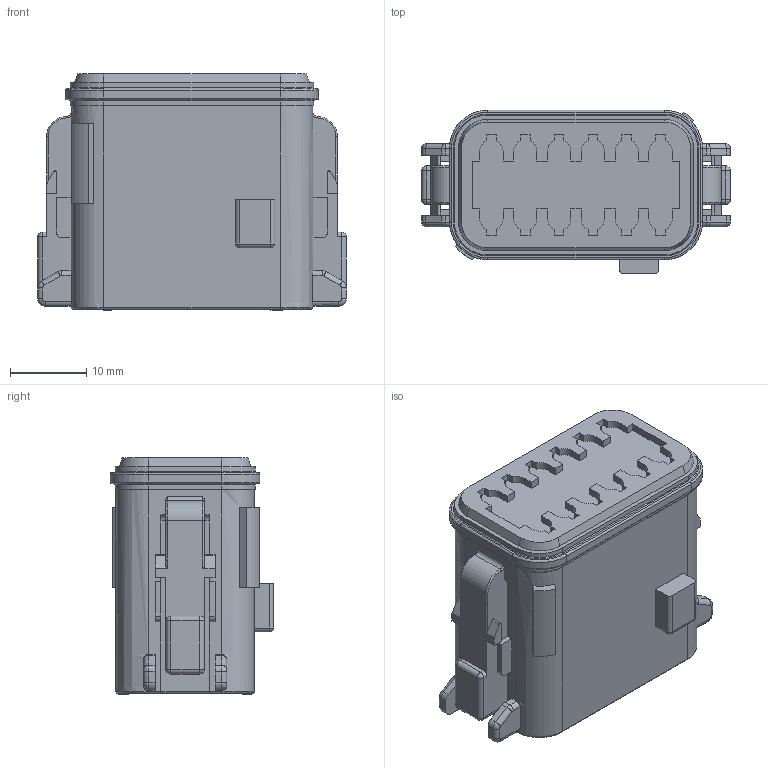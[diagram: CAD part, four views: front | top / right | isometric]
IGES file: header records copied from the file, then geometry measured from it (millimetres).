
Start section:  PTC IGES file: c-dt06-12sd-ce06-99-3d.igs
Global section: file name: c-dt06-12sd-ce06-99-3d.igs; native system: Pro/ENGINEER by Parametric Technology Corporation; preprocessor: 2011490; author: workeradm; organization: Unknown; units: millimetre
Bounding box: 40.56 x 21.46 x 31.04 mm (x, y, z)
Surface area: 5246.5 mm2 (no closed solid volume)
Topology: 0 solids, 0 shells, 635 faces, 3224 edges, 3224 vertices
Faces by surface type: bspline 322, revolution 313
